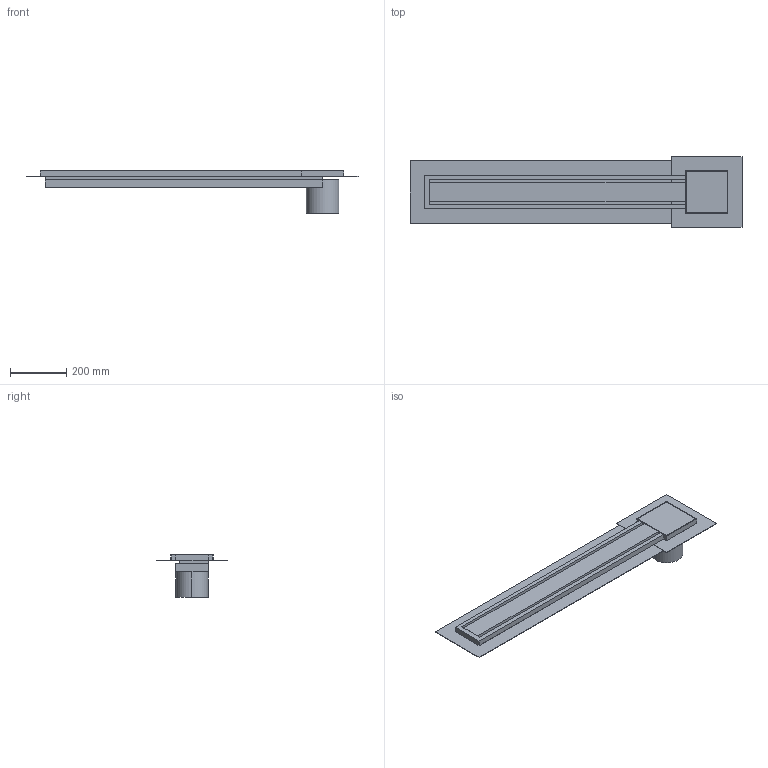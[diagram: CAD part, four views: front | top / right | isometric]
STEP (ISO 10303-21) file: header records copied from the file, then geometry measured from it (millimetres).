
FILE_DESCRIPTION(/* description */ (''),/* implementation_level */ '2;1');
FILE_NAME(/* name */ 'E:\Workspace\resitec\Packs\Kategorie\Entwässerungsrinne\STP\RS770K.18.150Entwässerungsrinne mit Auslaufkasten151mmE-4xKR.s.ipt.stp',/* time_stamp */ '2020-10-04T20:56:13+02:00',/* author */ ('ndmes'),/* organization */ (''),/* preprocessor_version */ 'ST-DEVELOPER v18.1',/* originating_system */ 'Autodesk Inventor 2021',/* authorisation */ '');
FILE_SCHEMA (('AUTOMOTIVE_DESIGN { 1 0 10303 214 3 1 1 }'));
Length unit declared in the file: millimetre
Products named in the file (1): RS770K.18.150Entwässerungsrinne mit Auslaufkasten151mmE-4xKR.s
Bounding box: 1175.5 x 251 x 150 mm (x, y, z)
Volume: 8326736.7 mm3; surface area: 1454485.1 mm2
Topology: 9 solids, 9 shells, 65 faces, 141 edges, 94 vertices
Faces by surface type: plane 63, cylinder 2
Entity records: 1780 total; most frequent: CARTESIAN_POINT 301, ORIENTED_EDGE 282, DIRECTION 277, EDGE_CURVE 141, LINE 137, VECTOR 137, VERTEX_POINT 94, AXIS2_PLACEMENT_3D 70
